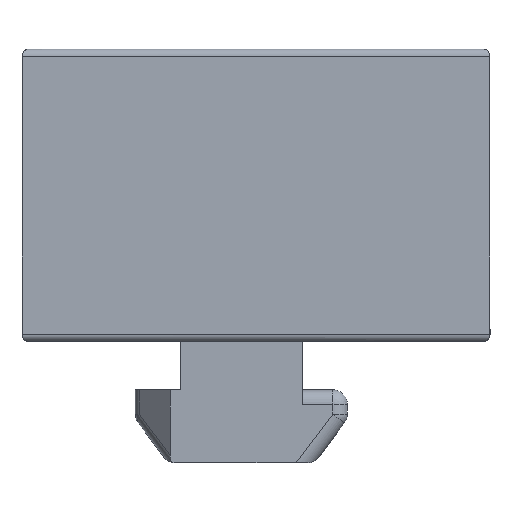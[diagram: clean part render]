
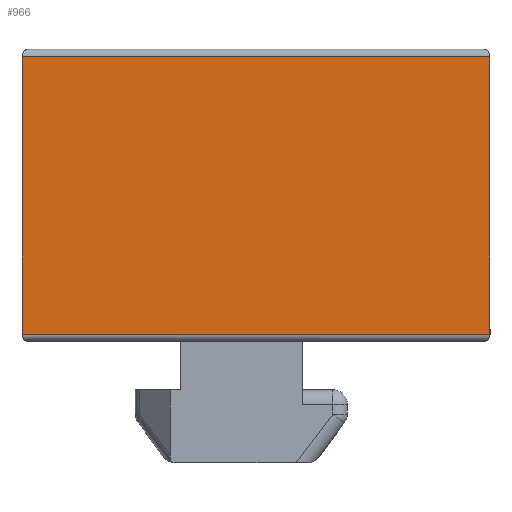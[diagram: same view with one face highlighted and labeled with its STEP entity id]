
A CAD part, left-side view. The second image highlights one B-rep face of the part: STEP entity #966.
In plain terms, the highlighted planar face has unit normal (-1, 0, 0).
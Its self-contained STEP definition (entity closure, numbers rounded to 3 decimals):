
#78=PLANE('',#1074);
#137=FACE_OUTER_BOUND('',#198,.T.);
#198=EDGE_LOOP('',(#862,#863,#864,#865));
#205=LINE('',#1393,#294);
#213=LINE('',#1414,#302);
#222=LINE('',#1437,#311);
#288=LINE('',#1649,#377);
#294=VECTOR('',#1090,19.);
#302=VECTOR('',#1106,32.);
#311=VECTOR('',#1125,32.);
#377=VECTOR('',#1371,19.);
#397=VERTEX_POINT('',#1384);
#400=VERTEX_POINT('',#1392);
#409=VERTEX_POINT('',#1412);
#418=VERTEX_POINT('',#1436);
#480=EDGE_CURVE('',#400,#397,#205,.T.);
#491=EDGE_CURVE('',#409,#397,#213,.T.);
#502=EDGE_CURVE('',#418,#400,#222,.T.);
#608=EDGE_CURVE('',#418,#409,#288,.T.);
#862=ORIENTED_EDGE('',*,*,#502,.T.);
#863=ORIENTED_EDGE('',*,*,#480,.T.);
#864=ORIENTED_EDGE('',*,*,#491,.F.);
#865=ORIENTED_EDGE('',*,*,#608,.F.);
#966=ADVANCED_FACE('',(#137),#78,.T.);
#1074=AXIS2_PLACEMENT_3D('',#1648,#1369,#1370);
#1090=DIRECTION('',(0.,0.,1.));
#1106=DIRECTION('',(0.,-1.,0.));
#1125=DIRECTION('',(0.,-1.,0.));
#1369=DIRECTION('center_axis',(-1.,0.,0.));
#1370=DIRECTION('ref_axis',(0.,0.,1.));
#1371=DIRECTION('',(0.,0.,1.));
#1384=CARTESIAN_POINT('',(0.,-2.5,28.5));
#1392=CARTESIAN_POINT('',(0.,-2.5,9.5));
#1393=CARTESIAN_POINT('',(0.,-2.5,0.));
#1412=CARTESIAN_POINT('',(0.,29.5,28.5));
#1414=CARTESIAN_POINT('',(0.,0.,28.5));
#1436=CARTESIAN_POINT('',(0.,29.5,9.5));
#1437=CARTESIAN_POINT('',(0.,0.,9.5));
#1648=CARTESIAN_POINT('Origin',(0.,0.,0.));
#1649=CARTESIAN_POINT('',(0.,29.5,0.));
